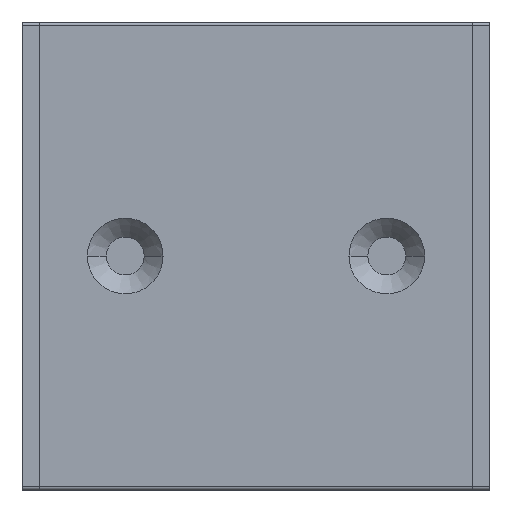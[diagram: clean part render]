
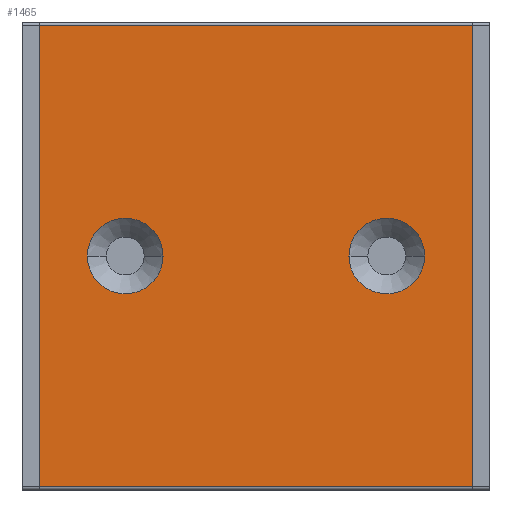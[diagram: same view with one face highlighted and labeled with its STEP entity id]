
A CAD part, front view. The second image highlights one B-rep face of the part: STEP entity #1465.
In plain terms, the highlighted planar face has unit normal (0, -1, 0).
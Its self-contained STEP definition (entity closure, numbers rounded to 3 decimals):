
#702=DIRECTION('',(-1.,0.,0.));
#703=VECTOR('',#702,63.);
#704=CARTESIAN_POINT('',(31.5,-145.5,33.5));
#705=LINE('',#704,#703);
#706=DIRECTION('',(0.,0.,-1.));
#707=VECTOR('',#706,67.);
#708=CARTESIAN_POINT('',(31.5,-145.5,33.5));
#709=LINE('',#708,#707);
#710=DIRECTION('',(-1.,0.,0.));
#711=VECTOR('',#710,63.);
#712=CARTESIAN_POINT('',(31.5,-145.5,-33.5));
#713=LINE('',#712,#711);
#714=DIRECTION('',(0.,0.,1.));
#715=VECTOR('',#714,67.);
#716=CARTESIAN_POINT('',(-31.5,-145.5,-33.5));
#717=LINE('',#716,#715);
#718=CARTESIAN_POINT('',(-19.,-145.5,0.));
#719=DIRECTION('',(0.,-1.,0.));
#720=DIRECTION('',(-1.,0.,0.));
#721=AXIS2_PLACEMENT_3D('',#718,#719,#720);
#723=CARTESIAN_POINT('',(-19.,-145.5,0.));
#724=DIRECTION('',(0.,-1.,0.));
#725=DIRECTION('',(1.,0.,0.));
#726=AXIS2_PLACEMENT_3D('',#723,#724,#725);
#728=CARTESIAN_POINT('',(19.,-145.5,0.));
#729=DIRECTION('',(0.,1.,0.));
#730=DIRECTION('',(1.,0.,0.));
#731=AXIS2_PLACEMENT_3D('',#728,#729,#730);
#733=CARTESIAN_POINT('',(19.,-145.5,0.));
#734=DIRECTION('',(0.,1.,0.));
#735=DIRECTION('',(-1.,0.,0.));
#736=AXIS2_PLACEMENT_3D('',#733,#734,#735);
#1160=CARTESIAN_POINT('',(-31.5,-145.5,33.5));
#1162=VERTEX_POINT('',#1160);
#1166=CARTESIAN_POINT('',(31.5,-145.5,33.5));
#1167=VERTEX_POINT('',#1166);
#1177=CARTESIAN_POINT('',(-31.5,-145.5,-33.5));
#1179=VERTEX_POINT('',#1177);
#1180=CARTESIAN_POINT('',(31.5,-145.5,-33.5));
#1181=VERTEX_POINT('',#1180);
#1276=CARTESIAN_POINT('',(-24.5,-145.5,0.));
#1277=CARTESIAN_POINT('',(-13.5,-145.5,0.));
#1278=VERTEX_POINT('',#1276);
#1279=VERTEX_POINT('',#1277);
#1288=CARTESIAN_POINT('',(24.5,-145.5,0.));
#1289=VERTEX_POINT('',#1288);
#1290=CARTESIAN_POINT('',(13.5,-145.5,0.));
#1291=VERTEX_POINT('',#1290);
#1438=CARTESIAN_POINT('',(-31.5,-145.5,34.));
#1439=DIRECTION('',(0.,-1.,0.));
#1440=DIRECTION('',(0.,0.,-1.));
#1441=AXIS2_PLACEMENT_3D('',#1438,#1439,#1440);
#1442=PLANE('',#1441);
#1444=ORIENTED_EDGE('',*,*,#1443,.F.);
#1446=ORIENTED_EDGE('',*,*,#1445,.T.);
#1448=ORIENTED_EDGE('',*,*,#1447,.T.);
#1450=ORIENTED_EDGE('',*,*,#1449,.T.);
#1451=EDGE_LOOP('',(#1444,#1446,#1448,#1450));
#1452=FACE_OUTER_BOUND('',#1451,.F.);
#1454=ORIENTED_EDGE('',*,*,#1453,.T.);
#1456=ORIENTED_EDGE('',*,*,#1455,.T.);
#1457=EDGE_LOOP('',(#1454,#1456));
#1458=FACE_BOUND('',#1457,.F.);
#1460=ORIENTED_EDGE('',*,*,#1459,.F.);
#1462=ORIENTED_EDGE('',*,*,#1461,.F.);
#1463=EDGE_LOOP('',(#1460,#1462));
#1464=FACE_BOUND('',#1463,.F.);
#1465=ADVANCED_FACE('',(#1452,#1458,#1464),#1442,.T.);
#722=CIRCLE('',#721,5.5);
#727=CIRCLE('',#726,5.5);
#732=CIRCLE('',#731,5.5);
#737=CIRCLE('',#736,5.5);
#1443=EDGE_CURVE('',#1167,#1162,#705,.T.);
#1445=EDGE_CURVE('',#1167,#1181,#709,.T.);
#1447=EDGE_CURVE('',#1181,#1179,#713,.T.);
#1449=EDGE_CURVE('',#1179,#1162,#717,.T.);
#1453=EDGE_CURVE('',#1278,#1279,#722,.T.);
#1455=EDGE_CURVE('',#1279,#1278,#727,.T.);
#1459=EDGE_CURVE('',#1289,#1291,#732,.T.);
#1461=EDGE_CURVE('',#1291,#1289,#737,.T.);
